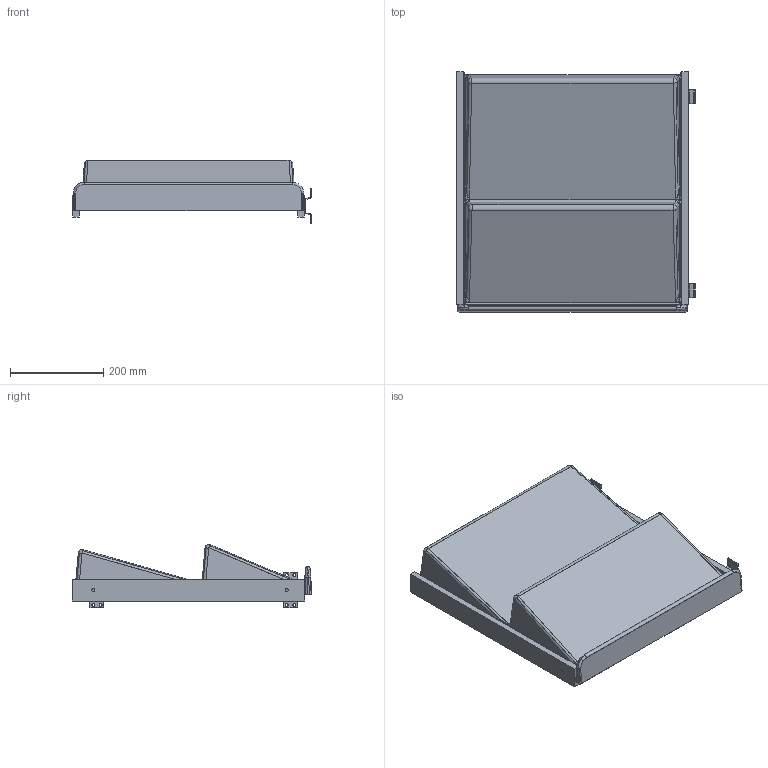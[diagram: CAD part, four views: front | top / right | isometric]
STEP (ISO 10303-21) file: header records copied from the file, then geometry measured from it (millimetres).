
FILE_DESCRIPTION(('STEP AP242'),'1');
FILE_NAME('OPO_50.810.01.stp','2025-11-08T20:21:49',(' '),(' '),'Spatial InterOp 3D',' ',' ');
FILE_SCHEMA(('AP242_MANAGED_MODEL_BASED_3D_ENGINEERING_MIM_LF {1 0 10303 442 1 1 4}'));
Length unit declared in the file: millimetre
Products named in the file (1): 1
Bounding box: 512 x 515.5 x 135.48 mm (x, y, z)
Volume: 1411295.3 mm3; surface area: 937817 mm2
Topology: 4 solids, 4 shells, 491 faces, 1298 edges, 798 vertices
Faces by surface type: cylinder 212, plane 145, bspline 134
Entity records: 39064 total; most frequent: CARTESIAN_POINT 23405, ORIENTED_EDGE 2548, DIRECTION 2320, EDGE_CURVE 1274, AXIS2_PLACEMENT_3D 889, VERTEX_POINT 798, LINE 542, VECTOR 542
